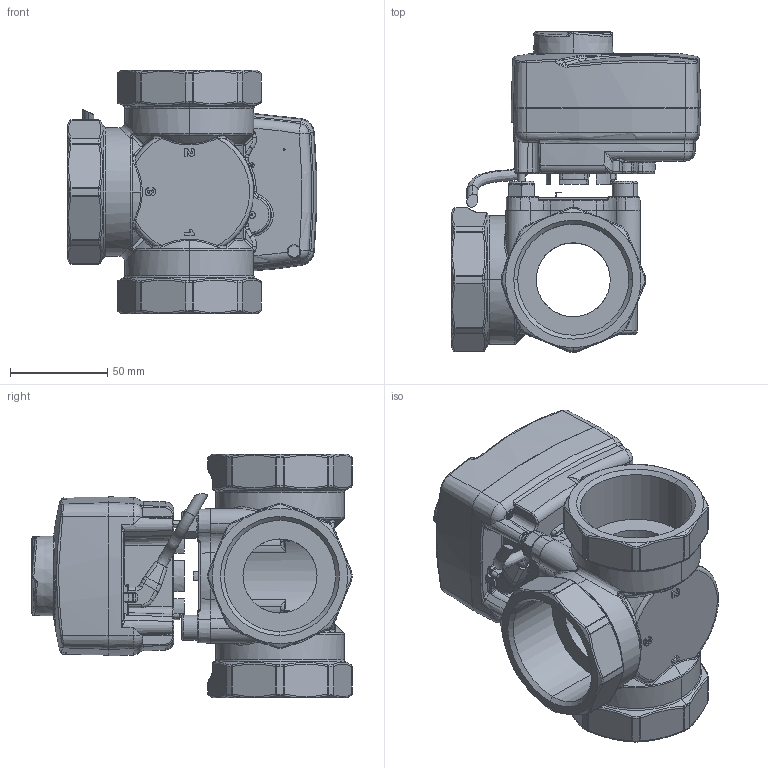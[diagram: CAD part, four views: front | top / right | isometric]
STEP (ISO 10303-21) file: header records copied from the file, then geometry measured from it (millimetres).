
FILE_DESCRIPTION (( 'STEP AP203' ), '1' );
FILE_NAME ('V3GB5040M60230.STEP', '2020-03-09T13:44:50', ( 'Windows User' ), ( 'Watts Water' ), 'SwSTEP 2.0', 'SolidWorks 2017', '' );
FILE_SCHEMA (( 'CONFIG_CONTROL_DESIGN' ));
Length unit declared in the file: millimetre
Products named in the file (1): V3GB5040M60230
Bounding box: 127.85 x 164.15 x 125 mm (x, y, z)
Surface area: 106515.1 mm2 (no closed solid volume)
Topology: 0 solids, 38 shells, 1208 faces, 3798 edges, 2508 vertices
Faces by surface type: bspline 462, cylinder 252, plane 223, cone 163, torus 100, sphere 8
Entity records: 61734 total; most frequent: CARTESIAN_POINT 32141, ORIENTED_EDGE 6225, DIRECTION 5432, EDGE_CURVE 3772, VERTEX_POINT 2508, AXIS2_PLACEMENT_3D 2103, CIRCLE 1356, EDGE_LOOP 1301
